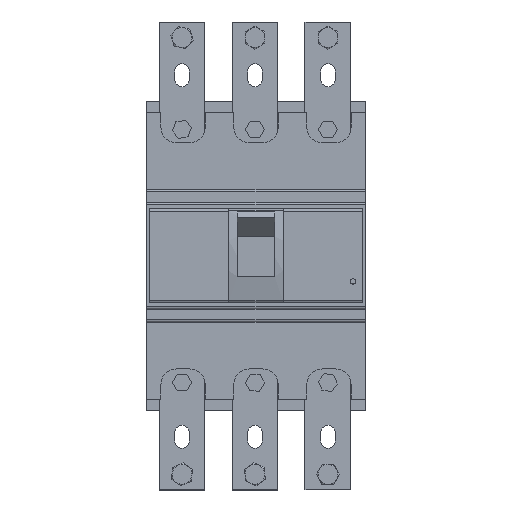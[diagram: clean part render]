
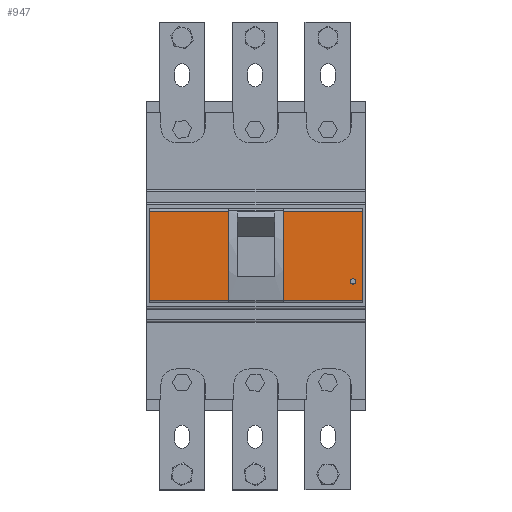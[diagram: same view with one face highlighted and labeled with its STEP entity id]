
A CAD part, top view. The second image highlights one B-rep face of the part: STEP entity #947.
In plain terms, the highlighted planar face has unit normal (0, 0, 1).
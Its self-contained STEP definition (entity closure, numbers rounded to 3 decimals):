
#295 = EDGE_CURVE ( 'NONE', #310, #1114, #10492, .T. ) ;
#310 = VERTEX_POINT ( 'NONE', #4251 ) ;
#324 = ORIENTED_EDGE ( 'NONE', *, *, #15212, .F. ) ;
#947 = ADVANCED_FACE ( 'NONE', ( #2985, #5331 ), #3652, .F. ) ;
#1114 = VERTEX_POINT ( 'NONE', #14423 ) ;
#1355 = LINE ( 'NONE', #15118, #15164 ) ;
#2383 = EDGE_CURVE ( 'NONE', #7874, #5032, #1355, .T. ) ;
#2985 = FACE_BOUND ( 'NONE', #6741, .T. ) ;
#3278 = CARTESIAN_POINT ( 'NONE',  ( -102.5, 42.882, 107.2 ) ) ;
#3652 = PLANE ( 'NONE',  #6100 ) ;
#3691 = DIRECTION ( 'NONE',  ( 1., 0., 0. ) ) ;
#4251 = CARTESIAN_POINT ( 'NONE',  ( 102.5, 42.882, 107.2 ) ) ;
#5032 = VERTEX_POINT ( 'NONE', #8738 ) ;
#5240 = DIRECTION ( 'NONE',  ( 0., 0., 1. ) ) ;
#5331 = FACE_OUTER_BOUND ( 'NONE', #15262, .T. ) ;
#5864 = EDGE_CURVE ( 'NONE', #1114, #5032, #15249, .T. ) ;
#5870 = DIRECTION ( 'NONE',  ( -1., 0., 0. ) ) ;
#6100 = AXIS2_PLACEMENT_3D ( 'NONE', #11076, #9525, #7955 ) ;
#6741 = EDGE_LOOP ( 'NONE', ( #324 ) ) ;
#6792 = CARTESIAN_POINT ( 'NONE',  ( 93., -24.5, 107.2 ) ) ;
#6939 = AXIS2_PLACEMENT_3D ( 'NONE', #6792, #5240, #3691 ) ;
#7357 = DIRECTION ( 'NONE',  ( 0., -1., 0. ) ) ;
#7435 = CARTESIAN_POINT ( 'NONE',  ( 102.5, 42.882, 107.2 ) ) ;
#7874 = VERTEX_POINT ( 'NONE', #3278 ) ;
#7955 = DIRECTION ( 'NONE',  ( 0., 1., 0. ) ) ;
#8738 = CARTESIAN_POINT ( 'NONE',  ( -102.5, -42.882, 107.2 ) ) ;
#8930 = CARTESIAN_POINT ( 'NONE',  ( 102.5, 42.882, 107.2 ) ) ;
#9016 = LINE ( 'NONE', #7435, #11678 ) ;
#9057 = CIRCLE ( 'NONE', #6939, 2.6 ) ;
#9114 = ORIENTED_EDGE ( 'NONE', *, *, #2383, .T. ) ;
#9440 = EDGE_CURVE ( 'NONE', #310, #7874, #9016, .T. ) ;
#9525 = DIRECTION ( 'NONE',  ( 0., 0., -1. ) ) ;
#10030 = VECTOR ( 'NONE', #10506, 1000. ) ;
#10492 = LINE ( 'NONE', #8930, #13300 ) ;
#10506 = DIRECTION ( 'NONE',  ( -1., 0., 0. ) ) ;
#10949 = ORIENTED_EDGE ( 'NONE', *, *, #9440, .T. ) ;
#11076 = CARTESIAN_POINT ( 'NONE',  ( 102.5, 42.882, 107.2 ) ) ;
#11678 = VECTOR ( 'NONE', #5870, 1000. ) ;
#12070 = CARTESIAN_POINT ( 'NONE',  ( 102.5, -42.882, 107.2 ) ) ;
#12305 = ORIENTED_EDGE ( 'NONE', *, *, #5864, .F. ) ;
#13206 = CARTESIAN_POINT ( 'NONE',  ( 95.6, -24.5, 107.2 ) ) ;
#13300 = VECTOR ( 'NONE', #7357, 1000. ) ;
#13548 = DIRECTION ( 'NONE',  ( 0., -1., 0. ) ) ;
#14423 = CARTESIAN_POINT ( 'NONE',  ( 102.5, -42.882, 107.2 ) ) ;
#14801 = VERTEX_POINT ( 'NONE', #13206 ) ;
#15062 = ORIENTED_EDGE ( 'NONE', *, *, #295, .F. ) ;
#15118 = CARTESIAN_POINT ( 'NONE',  ( -102.5, 42.882, 107.2 ) ) ;
#15164 = VECTOR ( 'NONE', #13548, 1000. ) ;
#15212 = EDGE_CURVE ( 'NONE', #14801, #14801, #9057, .T. ) ;
#15249 = LINE ( 'NONE', #12070, #10030 ) ;
#15262 = EDGE_LOOP ( 'NONE', ( #10949, #9114, #12305, #15062 ) ) ;
